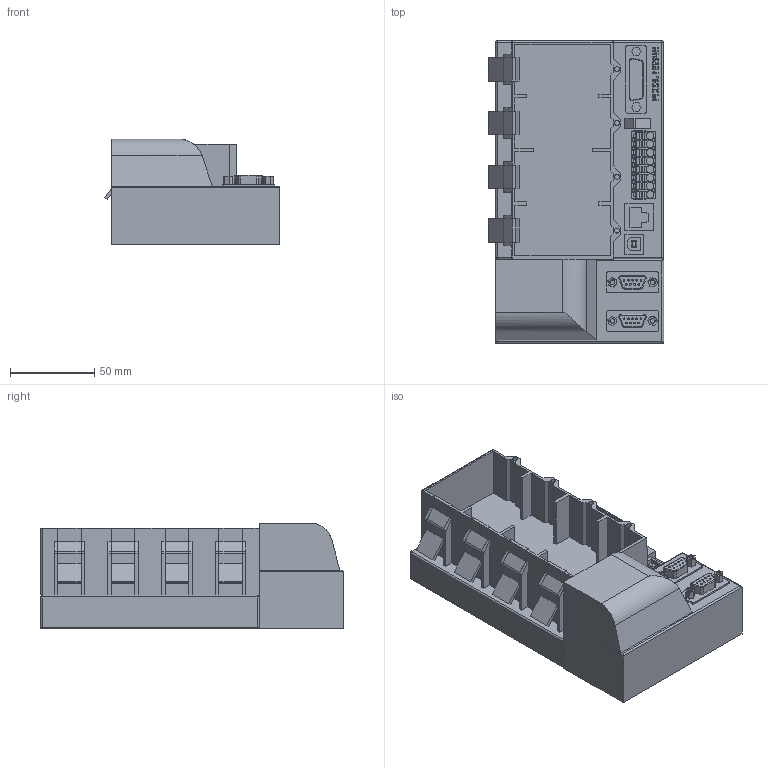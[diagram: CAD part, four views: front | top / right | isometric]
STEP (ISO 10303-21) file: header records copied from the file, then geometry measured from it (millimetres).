
FILE_DESCRIPTION(('CAx-IF Rec.Pracs.---Model Styling and Organization---1.5---2016-08-15','CAx-IF Rec.Pracs.---Geometric and Assembly Validation Properties---4.4---2016-08-17','CAx-IF Rec.Pracs.---User Defined Attributes---1.5---2016-08-15','CAx-IF Rec.Pracs.---External References---2.1---2005-01-19'),'2;1');
FILE_NAME('SBC_STP_PLC_PCD3M5540_2021-04-11.stp','2021-04-18T15:23:04',('Unspecified'),('Unspecified'),'CAD Exchanger 3.9.1 (cadexchanger.com)','Unspecified','');
FILE_SCHEMA(('AUTOMOTIVE_DESIGN { 1 0 10303 214 1 1 1 1 }'));
Length unit declared in the file: millimetre
Products named in the file (16): Body; D-Sub_9_female_left; Plug:_Type_A; D-Sub_9_female_right; all_-_Schnapper_Slot#0; all_-Schnapper_Slot#1; all_-Schnapper_Slot#2; all_-Schnapper_Slot#3; Bus_Terminator; PCD3.M5xxx-M6xxx_-_Seitenwagen; Eternit; PCD3.M5xxx-M6xxx_-_Deckel; USB; PCD3.Mxxxx_-_Erdung_-_CPUs; D-Sub_Erweiterung; Text_on_top_-_PCD3.M5540
Bounding box: 104.25 x 180 x 63 mm (x, y, z)
Volume: 628294 mm3; surface area: 117572.1 mm2
Topology: 37 solids, 37 shells, 1106 faces, 2843 edges, 1865 vertices
Faces by surface type: plane 760, extrusion 182, cylinder 142, torus 16, sphere 4, bspline 2
Full cylindrical faces by diameter (mm): 1 x18, 2.7 x4, 3 x4, 4.5 x8
Entity records: 37755 total; most frequent: CARTESIAN_POINT 7193, ORIENTED_EDGE 5678, DIRECTION 4802, EDGE_CURVE 2839, VECTOR 2340, LINE 2158, VERTEX_POINT 1865, AXIS2_PLACEMENT_3D 1231
